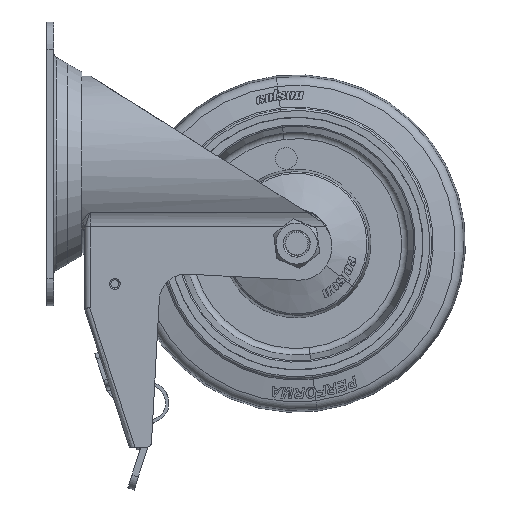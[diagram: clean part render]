
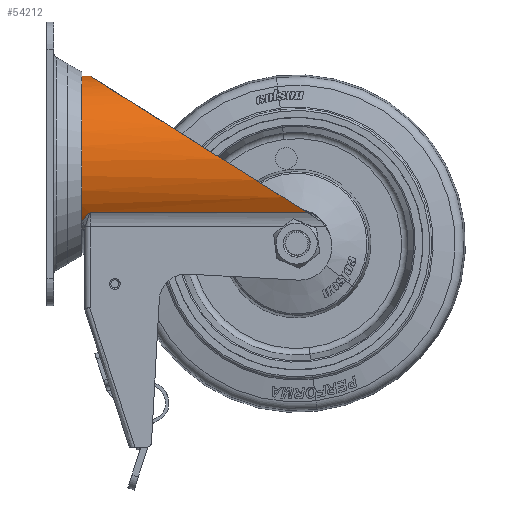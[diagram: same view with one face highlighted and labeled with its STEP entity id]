
A CAD part, left-side view. The second image highlights one B-rep face of the part: STEP entity #54212.
In plain terms, the highlighted cylindrical face has radius 32.5 mm (diameter 65 mm), a partial arc.
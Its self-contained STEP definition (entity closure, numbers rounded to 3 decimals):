
#1562 = ORIENTED_EDGE ( 'NONE', *, *, #103042, .T. ) ;
#2004 = ORIENTED_EDGE ( 'NONE', *, *, #125755, .T. ) ;
#4221 = CARTESIAN_POINT ( 'NONE',  ( -80.852, 107.386, 168.672 ) ) ;
#4371 = CARTESIAN_POINT ( 'NONE',  ( -78.827, 109.055, 166.304 ) ) ;
#5873 = CARTESIAN_POINT ( 'NONE',  ( -80.635, 107.631, 168.394 ) ) ;
#6691 = CARTESIAN_POINT ( 'NONE',  ( -81.636, 106.388, 169.723 ) ) ;
#7575 = CARTESIAN_POINT ( 'NONE',  ( -98.477, 64.237, 195.266 ) ) ;
#10759 = ORIENTED_EDGE ( 'NONE', *, *, #67474, .T. ) ;
#11767 = CARTESIAN_POINT ( 'NONE',  ( -55.188, 109.372, 188.611 ) ) ;
#13165 = DIRECTION ( 'NONE',  ( 0., 1., 0. ) ) ;
#14279 = CARTESIAN_POINT ( 'NONE',  ( -79.098, 108.901, 166.599 ) ) ;
#15517 = ORIENTED_EDGE ( 'NONE', *, *, #98625, .F. ) ;
#16764 = CARTESIAN_POINT ( 'NONE',  ( -82.335, 105.372, 170.742 ) ) ;
#17550 = CARTESIAN_POINT ( 'NONE',  ( -79.906, 108.334, 167.509 ) ) ;
#18383 = CARTESIAN_POINT ( 'NONE',  ( -80.04, 108.217, 167.667 ) ) ;
#19198 = CARTESIAN_POINT ( 'NONE',  ( -81.965, 105.921, 170.193 ) ) ;
#20164 = CARTESIAN_POINT ( 'NONE',  ( -77.325, 109.372, 164.816 ) ) ;
#20782 = CYLINDRICAL_SURFACE ( 'NONE', #57965, 32.5 ) ;
#21725 = LINE ( 'NONE', #137641, #34671 ) ;
#29266 = CARTESIAN_POINT ( 'NONE',  ( -80.866, 107.37, 168.689 ) ) ;
#30888 = CARTESIAN_POINT ( 'NONE',  ( -80.024, 108.231, 167.649 ) ) ;
#31739 = CARTESIAN_POINT ( 'NONE',  ( -81.58, 106.465, 169.646 ) ) ;
#32556 = CARTESIAN_POINT ( 'NONE',  ( -81.311, 106.824, 169.276 ) ) ;
#34556 = B_SPLINE_CURVE_WITH_KNOTS ( 'NONE', 3,
 ( #20164, #158728, #157904, #159567, #82741, #157068, #4371, #132885 ),
 .UNSPECIFIED., .F., .F.,
 ( 4, 2, 2, 4 ),
 ( 0., 0.25, 0.5, 1. ),
 .UNSPECIFIED. ) ;
#34671 = VECTOR ( 'NONE', #112597, 1000. ) ;
#35704 = CARTESIAN_POINT ( 'NONE',  ( -55.188, 113.372, 188.611 ) ) ;
#37882 = VERTEX_POINT ( 'NONE', #78471 ) ;
#37938 = ORIENTED_EDGE ( 'NONE', *, *, #129483, .T. ) ;
#39691 = VERTEX_POINT ( 'NONE', #106675 ) ;
#42545 = CARTESIAN_POINT ( 'NONE',  ( -81., 107.214, 168.862 ) ) ;
#43389 = CARTESIAN_POINT ( 'NONE',  ( -79.767, 108.448, 167.348 ) ) ;
#44169 = CARTESIAN_POINT ( 'NONE',  ( -80.88, 107.354, 168.707 ) ) ;
#45036 = CARTESIAN_POINT ( 'NONE',  ( -82.185, 105.598, 170.515 ) ) ;
#54212 = ADVANCED_FACE ( 'NONE', ( #109233 ), #20782, .T. ) ;
#54215 = CARTESIAN_POINT ( 'NONE',  ( -79.255, 108.812, 166.769 ) ) ;
#56717 = CARTESIAN_POINT ( 'NONE',  ( -80.821, 107.422, 168.631 ) ) ;
#57500 = CARTESIAN_POINT ( 'NONE',  ( -81.407, 106.698, 169.406 ) ) ;
#57851 = CIRCLE ( 'NONE', #108553, 32.5 ) ;
#57965 = AXIS2_PLACEMENT_3D ( 'NONE', #35704, #13165, #87450 ) ;
#59844 = DIRECTION ( 'NONE',  ( 0., -1., 0. ) ) ;
#60055 = CARTESIAN_POINT ( 'NONE',  ( -55.188, 105.372, 221.111 ) ) ;
#62537 = CARTESIAN_POINT ( 'NONE',  ( -82.335, 105.372, 170.742 ) ) ;
#62625 = DIRECTION ( 'NONE',  ( 0., -1., 0. ) ) ;
#64734 =( BOUNDED_CURVE ( )  B_SPLINE_CURVE ( 3, ( #60055, #95170, #7575, #83465 ),
 .UNSPECIFIED., .F., .T. ) 
 B_SPLINE_CURVE_WITH_KNOTS ( ( 4, 4 ),
 ( 0., 2.153 ),
 .UNSPECIFIED. ) 
 CURVE ( )  GEOMETRIC_REPRESENTATION_ITEM ( )  RATIONAL_B_SPLINE_CURVE ( ( 1., 0.65, 0.65, 1. ) ) 
 REPRESENTATION_ITEM ( '' )  );
#67474 = EDGE_CURVE ( 'NONE', #127030, #84193, #34556, .T. ) ;
#67553 = CARTESIAN_POINT ( 'NONE',  ( -80.529, 107.743, 168.262 ) ) ;
#68339 = CARTESIAN_POINT ( 'NONE',  ( -82.335, 25.206, 170.742 ) ) ;
#68383 = CARTESIAN_POINT ( 'NONE',  ( -81.979, 105.901, 170.213 ) ) ;
#68931 = CARTESIAN_POINT ( 'NONE',  ( -79.098, 108.901, 166.599 ) ) ;
#69230 = CARTESIAN_POINT ( 'NONE',  ( -80.319, 107.959, 168.002 ) ) ;
#70065 = CARTESIAN_POINT ( 'NONE',  ( -81.992, 105.882, 170.232 ) ) ;
#78471 = CARTESIAN_POINT ( 'NONE',  ( -55.188, 109.372, 221.111 ) ) ;
#80942 = CARTESIAN_POINT ( 'NONE',  ( -81.749, 106.231, 169.882 ) ) ;
#82593 = CARTESIAN_POINT ( 'NONE',  ( -81.61, 106.424, 169.687 ) ) ;
#82741 = CARTESIAN_POINT ( 'NONE',  ( -78.093, 109.291, 165.553 ) ) ;
#83417 = CARTESIAN_POINT ( 'NONE',  ( -81.985, 105.892, 170.222 ) ) ;
#83465 = CARTESIAN_POINT ( 'NONE',  ( -82.335, 25.206, 170.742 ) ) ;
#84193 = VERTEX_POINT ( 'NONE', #68931 ) ;
#87450 = DIRECTION ( 'NONE',  ( 0., 0., 1. ) ) ;
#89642 = B_SPLINE_CURVE_WITH_KNOTS ( 'NONE', 3,
 ( #14279, #54215, #120171, #43389, #17550, #105183, #131919, #30888, #146071, #18383, #158593, #69230, #67553, #5873, #95118, #56717, #4221, #29266, #107670, #44169, #42545, #159425, #32556, #57500, #93483, #31739, #82593, #144436, #108485, #6691, #106838, #80942, #133582, #131102, #143590, #19198, #68383, #83417, #95923, #70065, #120997, #45036, #16764 ),
 .UNSPECIFIED., .F., .F.,
 ( 4, 1, 1, 1, 1, 1, 2, 2, 2, 1, 1, 1, 1, 2, 2, 2, 1, 1, 1, 1, 2, 2, 2, 1, 1, 1, 1, 2, 2, 4 ),
 ( 0., 0.125, 0.187, 0.219, 0.234, 0.242, 0.246, 0.25, 0.375, 0.438, 0.469, 0.484, 0.492, 0.496, 0.5, 0.625, 0.688, 0.719, 0.734, 0.742, 0.746, 0.75, 0.813, 0.844, 0.859, 0.867, 0.871, 0.873, 0.875, 1. ),
 .UNSPECIFIED. ) ;
#93483 = CARTESIAN_POINT ( 'NONE',  ( -81.522, 106.544, 169.565 ) ) ;
#95118 = CARTESIAN_POINT ( 'NONE',  ( -80.759, 107.493, 168.552 ) ) ;
#95170 = CARTESIAN_POINT ( 'NONE',  ( -84.547, 105.372, 221.111 ) ) ;
#95770 = LINE ( 'NONE', #120840, #107542 ) ;
#95923 = CARTESIAN_POINT ( 'NONE',  ( -81.989, 105.886, 170.228 ) ) ;
#98625 = EDGE_CURVE ( 'NONE', #39691, #147065, #64734, .T. ) ;
#102968 = EDGE_CURVE ( 'NONE', #84193, #158746, #89642, .T. ) ;
#103042 = EDGE_CURVE ( 'NONE', #39691, #37882, #21725, .T. ) ;
#105183 = CARTESIAN_POINT ( 'NONE',  ( -79.975, 108.274, 167.591 ) ) ;
#106675 = CARTESIAN_POINT ( 'NONE',  ( -55.188, 105.372, 221.111 ) ) ;
#106838 = CARTESIAN_POINT ( 'NONE',  ( -81.692, 106.31, 169.803 ) ) ;
#107542 = VECTOR ( 'NONE', #59844, 1000. ) ;
#107670 = CARTESIAN_POINT ( 'NONE',  ( -80.875, 107.36, 168.7 ) ) ;
#108485 = CARTESIAN_POINT ( 'NONE',  ( -81.631, 106.395, 169.716 ) ) ;
#108553 = AXIS2_PLACEMENT_3D ( 'NONE', #11767, #62625, #113544 ) ;
#109099 = ORIENTED_EDGE ( 'NONE', *, *, #102968, .T. ) ;
#109233 = FACE_OUTER_BOUND ( 'NONE', #132938, .T. ) ;
#112597 = DIRECTION ( 'NONE',  ( 0., 1., 0. ) ) ;
#113544 = DIRECTION ( 'NONE',  ( 0., 0., -1. ) ) ;
#120171 = CARTESIAN_POINT ( 'NONE',  ( -79.491, 108.66, 167.031 ) ) ;
#120840 = CARTESIAN_POINT ( 'NONE',  ( -82.335, 113.372, 170.742 ) ) ;
#120997 = CARTESIAN_POINT ( 'NONE',  ( -82.07, 105.768, 170.346 ) ) ;
#125755 = EDGE_CURVE ( 'NONE', #37882, #127030, #57851, .T. ) ;
#127030 = VERTEX_POINT ( 'NONE', #146461 ) ;
#129483 = EDGE_CURVE ( 'NONE', #158746, #147065, #95770, .T. ) ;
#131102 = CARTESIAN_POINT ( 'NONE',  ( -81.883, 106.041, 170.073 ) ) ;
#131919 = CARTESIAN_POINT ( 'NONE',  ( -80.009, 108.244, 167.631 ) ) ;
#132885 = CARTESIAN_POINT ( 'NONE',  ( -79.098, 108.901, 166.599 ) ) ;
#132938 = EDGE_LOOP ( 'NONE', ( #15517, #1562, #2004, #10759, #109099, #37938 ) ) ;
#133582 = CARTESIAN_POINT ( 'NONE',  ( -81.837, 106.106, 170.008 ) ) ;
#137641 = CARTESIAN_POINT ( 'NONE',  ( -55.188, 113.372, 221.111 ) ) ;
#143590 = CARTESIAN_POINT ( 'NONE',  ( -81.937, 105.962, 170.152 ) ) ;
#144436 = CARTESIAN_POINT ( 'NONE',  ( -81.622, 106.407, 169.704 ) ) ;
#146071 = CARTESIAN_POINT ( 'NONE',  ( -80.034, 108.222, 167.661 ) ) ;
#146461 = CARTESIAN_POINT ( 'NONE',  ( -77.325, 109.372, 164.816 ) ) ;
#147065 = VERTEX_POINT ( 'NONE', #68339 ) ;
#157068 = CARTESIAN_POINT ( 'NONE',  ( -78.542, 109.172, 166.005 ) ) ;
#157904 = CARTESIAN_POINT ( 'NONE',  ( -77.634, 109.362, 165.107 ) ) ;
#158593 = CARTESIAN_POINT ( 'NONE',  ( -80.18, 108.092, 167.835 ) ) ;
#158728 = CARTESIAN_POINT ( 'NONE',  ( -77.48, 109.372, 164.961 ) ) ;
#158746 = VERTEX_POINT ( 'NONE', #62537 ) ;
#159425 = CARTESIAN_POINT ( 'NONE',  ( -81.122, 107.065, 169.022 ) ) ;
#159567 = CARTESIAN_POINT ( 'NONE',  ( -77.94, 109.322, 165.403 ) ) ;
